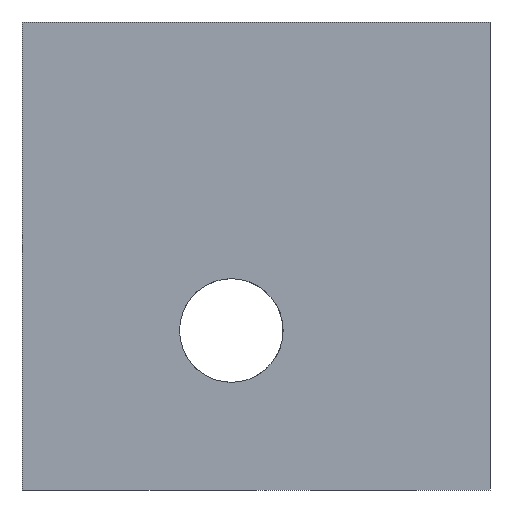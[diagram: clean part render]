
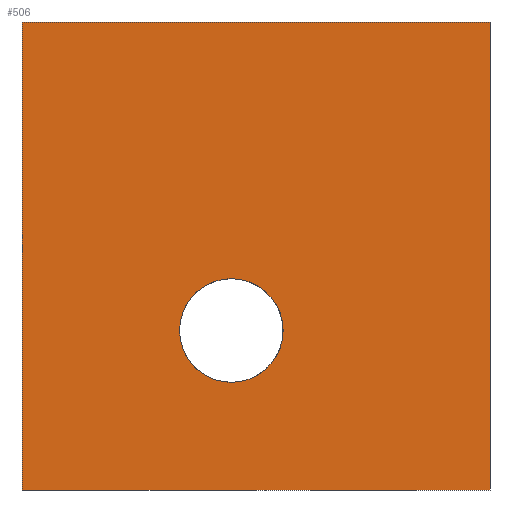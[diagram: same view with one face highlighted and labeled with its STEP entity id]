
A CAD part, left-side view. The second image highlights one B-rep face of the part: STEP entity #506.
In plain terms, the highlighted planar face has unit normal (-1, 0, 0).
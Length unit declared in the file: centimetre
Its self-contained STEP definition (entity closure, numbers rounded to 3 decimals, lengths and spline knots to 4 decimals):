
#94 = EDGE_CURVE ( 'NONE', #672, #428, #1749, .T. ) ;
#182 = AXIS2_PLACEMENT_3D ( 'NONE', #699, #713, #2033 ) ;
#220 = AXIS2_PLACEMENT_3D ( 'NONE', #1049, #700, #357 ) ;
#233 = VERTEX_POINT ( 'NONE', #1941 ) ;
#253 = VECTOR ( 'NONE', #608, 100. ) ;
#255 = LINE ( 'NONE', #412, #328 ) ;
#317 = VERTEX_POINT ( 'NONE', #1272 ) ;
#328 = VECTOR ( 'NONE', #1771, 100. ) ;
#357 = DIRECTION ( 'NONE',  ( 0., 0., -1. ) ) ;
#363 = CIRCLE ( 'NONE', #1446, 110.7082 ) ;
#389 = FACE_BOUND ( 'NONE', #692, .T. ) ;
#391 = CARTESIAN_POINT ( 'NONE',  ( 0., 552.7173, 230.095 ) ) ;
#412 = CARTESIAN_POINT ( 'NONE',  ( 0., 1000., 0. ) ) ;
#428 = VERTEX_POINT ( 'NONE', #457 ) ;
#435 = CARTESIAN_POINT ( 'NONE',  ( 0., 0., 1000. ) ) ;
#457 = CARTESIAN_POINT ( 'NONE',  ( 0., 1000., 0. ) ) ;
#463 = VECTOR ( 'NONE', #757, 100. ) ;
#506 = ADVANCED_FACE ( 'NONE', ( #389, #1897 ), #852, .F. ) ;
#600 = EDGE_CURVE ( 'NONE', #428, #317, #255, .T. ) ;
#603 = VECTOR ( 'NONE', #1095, 100. ) ;
#608 = DIRECTION ( 'NONE',  ( 0., -1., 0. ) ) ;
#672 = VERTEX_POINT ( 'NONE', #1672 ) ;
#692 = EDGE_LOOP ( 'NONE', ( #1874, #1073 ) ) ;
#699 = CARTESIAN_POINT ( 'NONE',  ( 0., 552.7173, 340.8032 ) ) ;
#700 = DIRECTION ( 'NONE',  ( 1., 0., 0. ) ) ;
#701 = ORIENTED_EDGE ( 'NONE', *, *, #94, .T. ) ;
#713 = DIRECTION ( 'NONE',  ( 1., 0., 0. ) ) ;
#734 = EDGE_CURVE ( 'NONE', #796, #1129, #363, .T. ) ;
#757 = DIRECTION ( 'NONE',  ( 0., 0., -1. ) ) ;
#796 = VERTEX_POINT ( 'NONE', #1277 ) ;
#852 = PLANE ( 'NONE',  #220 ) ;
#944 = LINE ( 'NONE', #435, #603 ) ;
#1049 = CARTESIAN_POINT ( 'NONE',  ( 0., 1000., 1000. ) ) ;
#1073 = ORIENTED_EDGE ( 'NONE', *, *, #734, .T. ) ;
#1095 = DIRECTION ( 'NONE',  ( 0., 0., -1. ) ) ;
#1129 = VERTEX_POINT ( 'NONE', #391 ) ;
#1133 = ORIENTED_EDGE ( 'NONE', *, *, #1448, .F. ) ;
#1144 = DIRECTION ( 'NONE',  ( 1., 0., 0. ) ) ;
#1220 = ORIENTED_EDGE ( 'NONE', *, *, #600, .T. ) ;
#1272 = CARTESIAN_POINT ( 'NONE',  ( 0., 0., 0. ) ) ;
#1277 = CARTESIAN_POINT ( 'NONE',  ( 0., 552.7173, 451.5114 ) ) ;
#1303 = ORIENTED_EDGE ( 'NONE', *, *, #1869, .F. ) ;
#1446 = AXIS2_PLACEMENT_3D ( 'NONE', #1953, #1144, #1477 ) ;
#1448 = EDGE_CURVE ( 'NONE', #672, #233, #2102, .T. ) ;
#1477 = DIRECTION ( 'NONE',  ( 0., 0., -1. ) ) ;
#1564 = CARTESIAN_POINT ( 'NONE',  ( 0., 1000., 1000. ) ) ;
#1590 = CARTESIAN_POINT ( 'NONE',  ( 0., 1000., 1000. ) ) ;
#1672 = CARTESIAN_POINT ( 'NONE',  ( 0., 1000., 1000. ) ) ;
#1685 = EDGE_LOOP ( 'NONE', ( #1220, #1303, #1133, #701 ) ) ;
#1749 = LINE ( 'NONE', #1590, #463 ) ;
#1760 = CIRCLE ( 'NONE', #182, 110.7082 ) ;
#1771 = DIRECTION ( 'NONE',  ( 0., -1., 0. ) ) ;
#1869 = EDGE_CURVE ( 'NONE', #233, #317, #944, .T. ) ;
#1874 = ORIENTED_EDGE ( 'NONE', *, *, #2053, .T. ) ;
#1897 = FACE_OUTER_BOUND ( 'NONE', #1685, .T. ) ;
#1941 = CARTESIAN_POINT ( 'NONE',  ( 0., 0., 1000. ) ) ;
#1953 = CARTESIAN_POINT ( 'NONE',  ( 0., 552.7173, 340.8032 ) ) ;
#2033 = DIRECTION ( 'NONE',  ( 0., 0., -1. ) ) ;
#2053 = EDGE_CURVE ( 'NONE', #1129, #796, #1760, .T. ) ;
#2102 = LINE ( 'NONE', #1564, #253 ) ;
